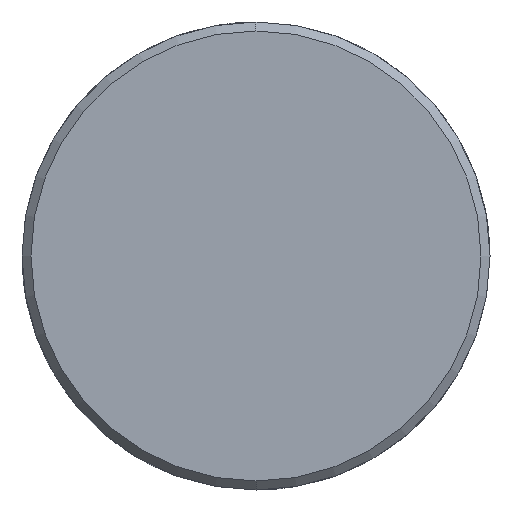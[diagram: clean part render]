
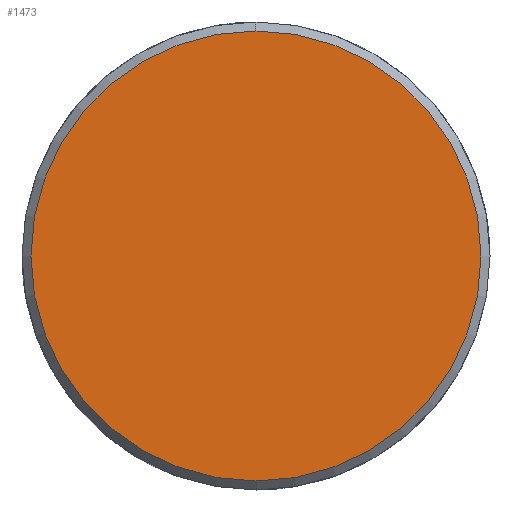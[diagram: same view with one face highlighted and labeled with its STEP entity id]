
A CAD part, left-side view. The second image highlights one B-rep face of the part: STEP entity #1473.
In plain terms, the highlighted planar face has unit normal (-1, 0, 0).
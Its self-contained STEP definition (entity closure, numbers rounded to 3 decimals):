
#1405=CARTESIAN_POINT('Vertex',(-8.,0.,-25.)) ;
#1408=CARTESIAN_POINT('Axis2P3D Location',(-8.,0.,0.)) ;
#1412=CARTESIAN_POINT('Vertex',(-8.,25.,0.)) ;
#1415=CARTESIAN_POINT('Axis2P3D Location',(-8.,0.,0.)) ;
#1419=CARTESIAN_POINT('Vertex',(-8.,0.,25.)) ;
#1441=CARTESIAN_POINT('Axis2P3D Location',(-8.,0.,0.)) ;
#1445=CARTESIAN_POINT('Vertex',(-8.,-25.,0.)) ;
#1448=CARTESIAN_POINT('Axis2P3D Location',(-8.,0.,0.)) ;
#1462=CARTESIAN_POINT('Axis2P3D Location',(-8.,0.,0.)) ;
#1409=DIRECTION('Axis2P3D Direction',(1.,0.,-0.)) ;
#1416=DIRECTION('Axis2P3D Direction',(1.,0.,-0.)) ;
#1442=DIRECTION('Axis2P3D Direction',(1.,0.,-0.)) ;
#1449=DIRECTION('Axis2P3D Direction',(1.,0.,-0.)) ;
#1463=DIRECTION('Axis2P3D Direction',(1.,0.,-0.)) ;
#1464=DIRECTION('Axis2P3D XDirection',(-0.,0.,-1.)) ;
#1410=AXIS2_PLACEMENT_3D('Circle Axis2P3D',#1408,#1409,$) ;
#1417=AXIS2_PLACEMENT_3D('Circle Axis2P3D',#1415,#1416,$) ;
#1443=AXIS2_PLACEMENT_3D('Circle Axis2P3D',#1441,#1442,$) ;
#1450=AXIS2_PLACEMENT_3D('Circle Axis2P3D',#1448,#1449,$) ;
#1465=AXIS2_PLACEMENT_3D('Plane Axis2P3D',#1462,#1463,#1464) ;
#1468=ORIENTED_EDGE('',*,*,#1414,.F.) ;
#1469=ORIENTED_EDGE('',*,*,#1452,.F.) ;
#1470=ORIENTED_EDGE('',*,*,#1447,.F.) ;
#1471=ORIENTED_EDGE('',*,*,#1421,.F.) ;
#1473=ADVANCED_FACE('351-40X96X280',(#1472),#1466,.F.) ;
#1411=CIRCLE('generated circle',#1410,25.) ;
#1418=CIRCLE('generated circle',#1417,25.) ;
#1444=CIRCLE('generated circle',#1443,25.) ;
#1451=CIRCLE('generated circle',#1450,25.) ;
#1414=EDGE_CURVE('',#1406,#1413,#1411,.T.) ;
#1421=EDGE_CURVE('',#1413,#1420,#1418,.T.) ;
#1447=EDGE_CURVE('',#1420,#1446,#1444,.T.) ;
#1452=EDGE_CURVE('',#1446,#1406,#1451,.T.) ;
#1467=EDGE_LOOP('',(#1468,#1469,#1470,#1471)) ;
#1472=FACE_OUTER_BOUND('',#1467,.T.) ;
#1466=PLANE('Plane',#1465) ;
#1406=VERTEX_POINT('',#1405) ;
#1413=VERTEX_POINT('',#1412) ;
#1420=VERTEX_POINT('',#1419) ;
#1446=VERTEX_POINT('',#1445) ;
